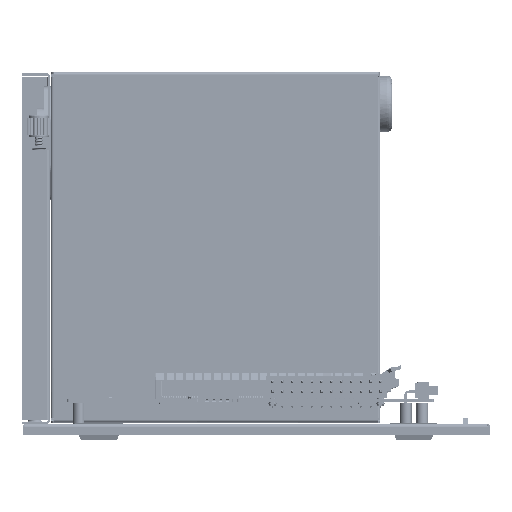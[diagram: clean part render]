
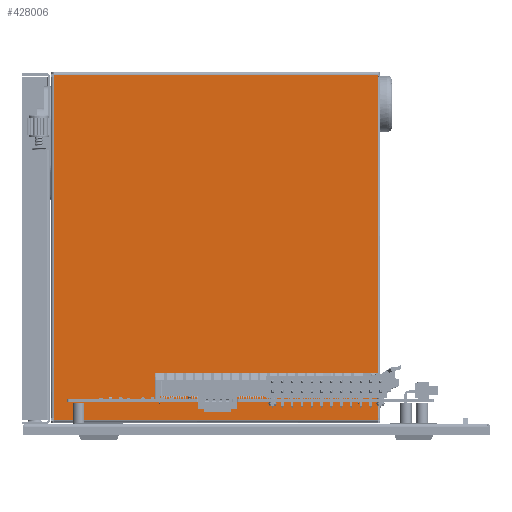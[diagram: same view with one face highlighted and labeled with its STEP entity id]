
A CAD part, front view. The second image highlights one B-rep face of the part: STEP entity #428006.
In plain terms, the highlighted free-form (B-spline) face has degree [1, 1] with [2, 2] control points.
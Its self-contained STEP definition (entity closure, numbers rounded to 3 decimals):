
#425936 = VERTEX_POINT('',#425937);
#425937 = CARTESIAN_POINT('',(-73.8,0.,-69.3)
  );
#426016 = VERTEX_POINT('',#426017);
#426017 = CARTESIAN_POINT('',(-73.,0.,
    -69.3));
#426052 = VERTEX_POINT('',#426053);
#426053 = CARTESIAN_POINT('',(73.,0.,
    -69.3));
#426131 = VERTEX_POINT('',#426132);
#426132 = CARTESIAN_POINT('',(73.8,0.,-69.3)
  );
#426168 = VERTEX_POINT('',#426169);
#426169 = CARTESIAN_POINT('',(73.8,0.,69.3));
#426229 = VERTEX_POINT('',#426230);
#426230 = CARTESIAN_POINT('',(-73.8,0.,69.3));
#427156 = EDGE_CURVE('',#426229,#425936,#427157,.T.);
#427157 = B_SPLINE_CURVE_WITH_KNOTS('',1,(#427158,#427159),
  .UNSPECIFIED.,.F.,.F.,(2,2),(0.,1.),.PIECEWISE_BEZIER_KNOTS.);
#427158 = CARTESIAN_POINT('',(-73.8,0.,69.3));
#427159 = CARTESIAN_POINT('',(-73.8,0.,-69.3));
#427172 = EDGE_CURVE('',#425936,#426016,#427173,.T.);
#427173 = B_SPLINE_CURVE_WITH_KNOTS('',1,(#427174,#427175),
  .UNSPECIFIED.,.F.,.F.,(2,2),(0.,1.),.PIECEWISE_BEZIER_KNOTS.);
#427174 = CARTESIAN_POINT('',(-73.8,0.,-69.3));
#427175 = CARTESIAN_POINT('',(-73.,0.,-69.3));
#427194 = EDGE_CURVE('',#426016,#426052,#427195,.T.);
#427195 = B_SPLINE_CURVE_WITH_KNOTS('',1,(#427196,#427197),
  .UNSPECIFIED.,.F.,.F.,(2,2),(0.,1.),.PIECEWISE_BEZIER_KNOTS.);
#427196 = CARTESIAN_POINT('',(-73.,0.,-69.3));
#427197 = CARTESIAN_POINT('',(73.,0.,-69.3));
#427209 = EDGE_CURVE('',#426052,#426131,#427210,.T.);
#427210 = B_SPLINE_CURVE_WITH_KNOTS('',1,(#427211,#427212),
  .UNSPECIFIED.,.F.,.F.,(2,2),(0.,1.),.PIECEWISE_BEZIER_KNOTS.);
#427211 = CARTESIAN_POINT('',(73.,0.,-69.3));
#427212 = CARTESIAN_POINT('',(73.8,0.,-69.3));
#427232 = EDGE_CURVE('',#426131,#426168,#427233,.T.);
#427233 = B_SPLINE_CURVE_WITH_KNOTS('',1,(#427234,#427235),
  .UNSPECIFIED.,.F.,.F.,(2,2),(0.,1.),.PIECEWISE_BEZIER_KNOTS.);
#427234 = CARTESIAN_POINT('',(73.8,0.,-69.3));
#427235 = CARTESIAN_POINT('',(73.8,0.,69.3));
#427248 = VERTEX_POINT('',#427249);
#427249 = CARTESIAN_POINT('',(73.,0.,
    69.3));
#427256 = EDGE_CURVE('',#426168,#427248,#427257,.T.);
#427257 = B_SPLINE_CURVE_WITH_KNOTS('',1,(#427258,#427259),
  .UNSPECIFIED.,.F.,.F.,(2,2),(0.,1.),.PIECEWISE_BEZIER_KNOTS.);
#427258 = CARTESIAN_POINT('',(73.8,0.,69.3));
#427259 = CARTESIAN_POINT('',(73.,0.,69.3));
#427284 = VERTEX_POINT('',#427285);
#427285 = CARTESIAN_POINT('',(-73.,0.,
    69.3));
#427290 = EDGE_CURVE('',#427284,#426229,#427291,.T.);
#427291 = B_SPLINE_CURVE_WITH_KNOTS('',1,(#427292,#427293),
  .UNSPECIFIED.,.F.,.F.,(2,2),(0.,1.),.PIECEWISE_BEZIER_KNOTS.);
#427292 = CARTESIAN_POINT('',(-73.,0.,69.3));
#427293 = CARTESIAN_POINT('',(-73.8,0.,69.3));
#428006 = ADVANCED_FACE('',(#428007),#428021,.T.);
#428007 = FACE_BOUND('',#428008,.T.);
#428008 = EDGE_LOOP('',(#428009,#428010,#428015,#428016,#428017,#428018,
    #428019,#428020));
#428009 = ORIENTED_EDGE('',*,*,#427256,.T.);
#428010 = ORIENTED_EDGE('',*,*,#428011,.T.);
#428011 = EDGE_CURVE('',#427248,#427284,#428012,.T.);
#428012 = B_SPLINE_CURVE_WITH_KNOTS('',1,(#428013,#428014),
  .UNSPECIFIED.,.F.,.F.,(2,2),(0.,1.),.PIECEWISE_BEZIER_KNOTS.);
#428013 = CARTESIAN_POINT('',(73.,0.,69.3));
#428014 = CARTESIAN_POINT('',(-73.,0.,69.3));
#428015 = ORIENTED_EDGE('',*,*,#427290,.T.);
#428016 = ORIENTED_EDGE('',*,*,#427156,.T.);
#428017 = ORIENTED_EDGE('',*,*,#427172,.T.);
#428018 = ORIENTED_EDGE('',*,*,#427194,.T.);
#428019 = ORIENTED_EDGE('',*,*,#427209,.T.);
#428020 = ORIENTED_EDGE('',*,*,#427232,.T.);
#428021 = B_SPLINE_SURFACE_WITH_KNOTS('',1,1,(
    (#428022,#428023)
    ,(#428024,#428025
    )),.UNSPECIFIED.,.F.,.F.,.F.,(2,2),(2,2),(0.,1.),(0.,1.),
  .PIECEWISE_BEZIER_KNOTS.);
#428022 = CARTESIAN_POINT('',(-73.8,0.,69.3));
#428023 = CARTESIAN_POINT('',(73.8,0.,69.3));
#428024 = CARTESIAN_POINT('',(-73.8,0.,-69.3));
#428025 = CARTESIAN_POINT('',(73.8,0.,-69.3));
